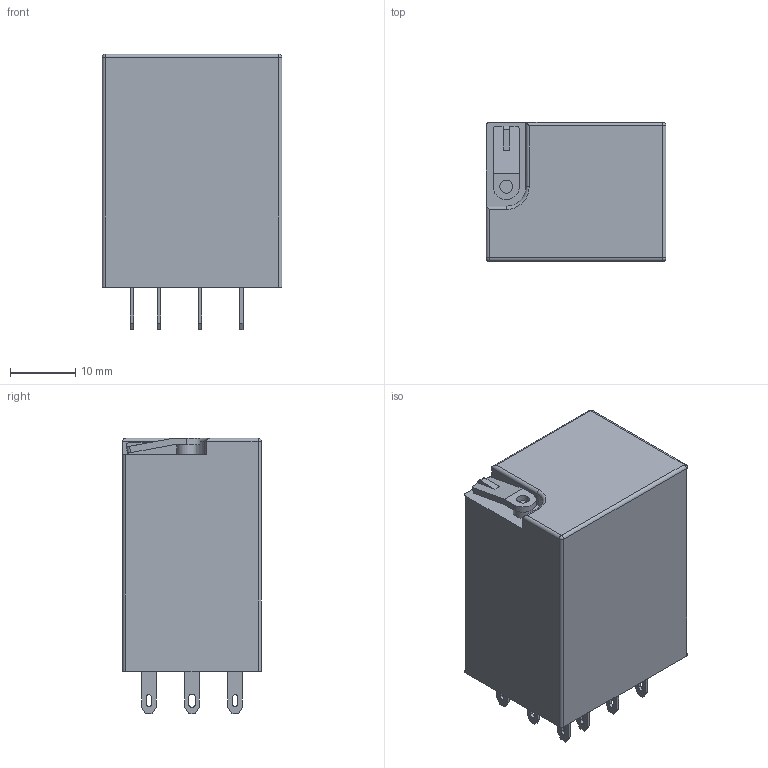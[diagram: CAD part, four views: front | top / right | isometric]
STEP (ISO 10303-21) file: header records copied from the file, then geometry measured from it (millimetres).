
FILE_DESCRIPTION(/* description */ ('STEP AP214'),/* implementation_level */ '2;1');
FILE_NAME(/* name */ 'I:\TI\Inventor\Panelen\Algemeen\Relais\Relpol relays 3D files\M3\M3.STP',/* time_stamp */ '2021-06-03T15:01:15+02:00',/* author */ ('nbinnendijk'),/* organization */ ('Mors Smitt'),/* preprocessor_version */ 'ST-DEVELOPER v18',/* originating_system */ 'Autodesk Inventor 2020',/* authorisation */ '');
FILE_SCHEMA (('AUTOMOTIVE_DESIGN { 1 0 10303 214 3 1 1 }'));
Length unit declared in the file: millimetre
Products named in the file (1): M3
Bounding box: 27.5 x 21.2 x 42.1 mm (x, y, z)
Volume: 20670.7 mm3; surface area: 5065 mm2
Topology: 1 solids, 1 shells, 162 faces, 432 edges, 283 vertices
Faces by surface type: plane 119, cylinder 39, sphere 3, torus 1
Full cylindrical faces by diameter (mm): 2 x1, 3 x1
Entity records: 5076 total; most frequent: CARTESIAN_POINT 875, ORIENTED_EDGE 858, DIRECTION 836, EDGE_CURVE 429, LINE 348, VECTOR 348, VERTEX_POINT 283, AXIS2_PLACEMENT_3D 244
